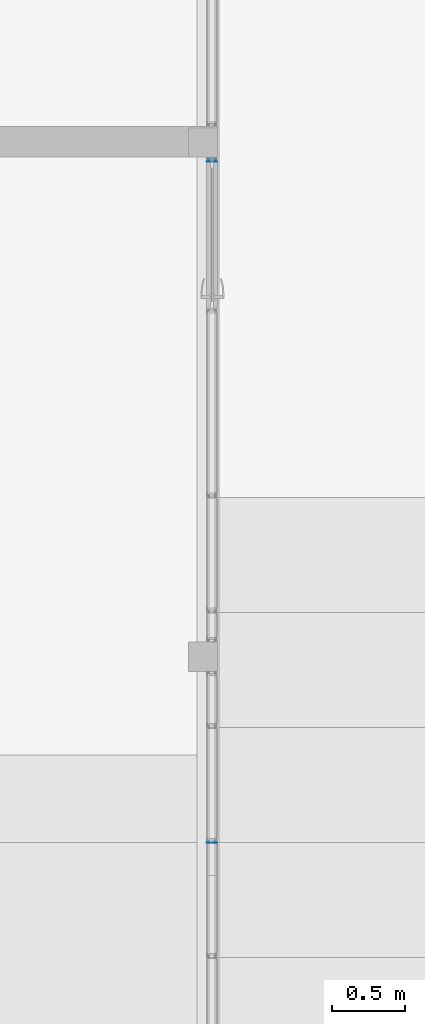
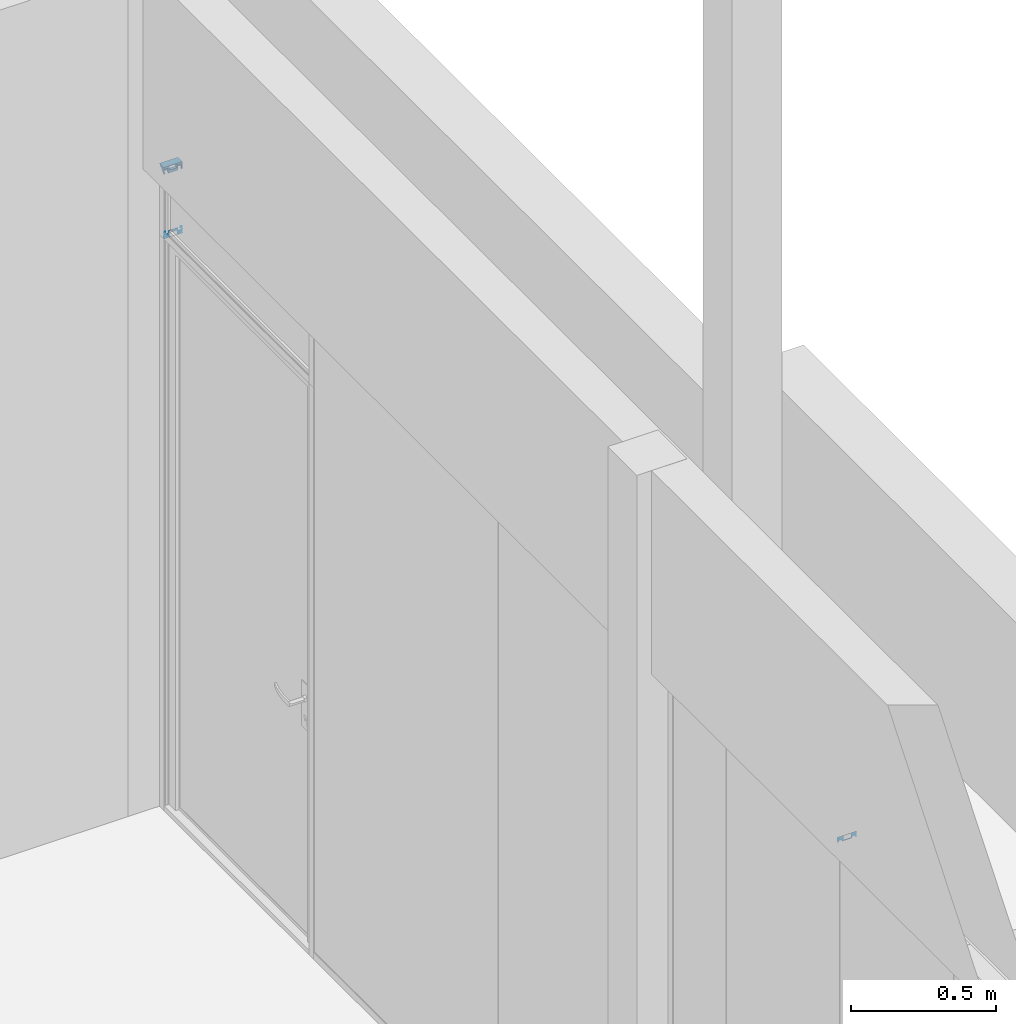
# One storey, part 52 of 65: 6 building element parts, 5 elements without a shape of their own.
"""IFC2X3 building model written with IfcOpenShell, lengths in millimetres."""

from ifc_helpers import new_model, entity, si_unit, converted_unit, derived_unit, money_unit, direction, frame, origin_with_axes, place, context, subcontext, project, spatial, faceted_brep, material, type_object, element, aggregate, save


model = new_model("IFC2X3")

# Units and contexts
model_context = context("Model", 3, precision=0.01, world=origin_with_axes(), true_north=direction((0.0, 1.0)))
body_context = subcontext(model_context, "Body", "Model", "MODEL_VIEW")
ifc_project = project(units=[si_unit("LENGTHUNIT", "METRE", prefix="MILLI"), si_unit("AREAUNIT", "SQUARE_METRE"), si_unit("VOLUMEUNIT", "CUBIC_METRE"), converted_unit("PLANEANGLEUNIT", "DEGREE", entity("IfcPlaneAngleMeasure", 0.0174532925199), si_unit("PLANEANGLEUNIT", "RADIAN"), dimensions=[0, 0, 0, 0, 0, 0, 0]), si_unit("SOLIDANGLEUNIT", "STERADIAN"), money_unit("EUR"), converted_unit("TIMEUNIT", "Year", entity("IfcTimeMeasure", 31556926.0), si_unit("TIMEUNIT", "SECOND"), dimensions=[0, 0, 1, 0, 0, 0, 0]), si_unit("MASSUNIT", "GRAM", prefix="KILO"), si_unit("THERMODYNAMICTEMPERATUREUNIT", "DEGREE_CELSIUS"), si_unit("LUMINOUSINTENSITYUNIT", "LUMEN"), si_unit("ENERGYUNIT", "JOULE", prefix="MEGA"), derived_unit("THERMALCONDUCTANCEUNIT", [(si_unit("POWERUNIT", "WATT"), 1), (si_unit("LENGTHUNIT", "METRE"), -1), (si_unit("THERMODYNAMICTEMPERATUREUNIT", "KELVIN"), -1)]), derived_unit("SPECIFICHEATCAPACITYUNIT", [(si_unit("ENERGYUNIT", "JOULE"), 1), (si_unit("MASSUNIT", "GRAM", prefix="KILO"), -1), (si_unit("THERMODYNAMICTEMPERATUREUNIT", "KELVIN"), -1)]), derived_unit("MASSDENSITYUNIT", [(si_unit("MASSUNIT", "GRAM", prefix="KILO"), 1), (si_unit("VOLUMEUNIT", "CUBIC_METRE"), -1)])], contexts=[model_context])

# Site, building, storey
site_placement = place(None, origin_with_axes())
site = spatial("IfcSite", under=ifc_project, at=site_placement, Name="Puškini 31, Narva", CompositionType="ELEMENT")
building_placement = place(site_placement, origin_with_axes())
building = spatial("IfcBuilding", under=site, at=building_placement, Name="Narva Riigigümnaasium", CompositionType="ELEMENT")
storey_placement = place(building_placement, frame((0.0, 0.0, -1320.0), z_axis=(0.0, 0.0, 1.0), x_axis=(1.0, 0.0, 0.0)))
storey = spatial("IfcBuildingStorey", under=building, at=storey_placement, Name="1.korrus -1.32", CompositionType="ELEMENT", Elevation=-1320.0)

# Curtain wall, member, building element parts
curtain_wall_type = type_object("IfcCurtainWallType", Name="Curtain Wall Type", PredefinedType="NOTDEFINED")
curtain_wall_1_placement = place(storey_placement, frame((30362.9999948, 159591.499992, 330.0), z_axis=(0.0, 0.0, 1.0), x_axis=(1.0, 0.0, 0.0)))
curtain_wall_1 = element("IfcCurtainWall", 1, at=curtain_wall_1_placement, inside=storey, type_object=curtain_wall_type, Name="G-SKLF-03")
member_type = type_object("IfcMemberType", Name="Boundary Frame 30 x 37", PredefinedType="MULLION")
member_1_placement = place(curtain_wall_1_placement, frame((0.0, 2741.70002059, 2369.99991028), z_axis=(0.0, -1.0, -2.12104469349e-08), x_axis=(0.0, 2.12104469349e-08, -1.0)))
member_1 = element("IfcMember", 2, at=member_1_placement, type_object=member_type, Name="G-SKLF-26-raam", ObjectType="MULLION")
aggregate(curtain_wall_1, [member_1])
ifc_material_1 = material(Name="Klaasvill")
building_element_part_1_placement = place(member_1_placement, origin_with_axes())
building_element_part_1 = element("IfcBuildingElementPart", 3, at=building_element_part_1_placement, material=ifc_material_1, Name="Klaasvill", context=body_context, shape_type="Brep", body=[
    faceted_brep([(7.49999990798, 34.0161444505, 0.825024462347), (13.8499999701, 34.0161444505, 0.507527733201), (13.8499999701, 34.0161444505, 0.0), (7.49999990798, 34.0161444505, 0.0), (13.8499999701, 20.000000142, 0.507527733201), (7.49999990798, 20.000000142, 0.825024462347), (13.8499999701, 20.000000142, 0.0), (7.49999990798, 20.000000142, 0.0)], [[[0, 1, 2, 3]], [[4, 1, 0, 5]], [[1, 4, 6, 2]], [[3, 2, 6, 7]], [[5, 0, 3, 7]], [[4, 5, 7, 6]]]),
    faceted_brep([(7.49999990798, -19.9999997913, 0.825024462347), (13.8499999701, -19.9999997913, 0.507527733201), (13.8499999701, -19.9999997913, 0.0), (7.49999990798, -19.9999997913, 0.0), (13.8499999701, -34.0161445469, 0.507527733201), (7.49999990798, -34.0161445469, 0.825024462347), (13.8499999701, -34.0161445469, 0.0), (7.49999990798, -34.0161445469, 0.0)], [[[0, 1, 2, 3]], [[4, 1, 0, 5]], [[1, 4, 6, 2]], [[2, 6, 7, 3]], [[5, 0, 3, 7]], [[4, 5, 7, 6]]]),
])
ifc_material_2 = material(Name="Teras RAL7012")
building_element_part_2_placement = place(member_1_placement, origin_with_axes())
building_element_part_2 = element("IfcBuildingElementPart", 4, at=building_element_part_2_placement, material=ifc_material_2, Name="Teras RAL7012", context=body_context, shape_type="Brep", body=[
    faceted_brep([(18.7999996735, -15.0000001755, 0.260030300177), (18.7999996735, 15.0000001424, 0.260030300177), (18.7999996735, 15.0000001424, 0.0), (18.7999996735, -15.0000001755, 0.0), (24.0006593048, -17.0000000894, 0.0), (24.0006593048, 17.0000000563, 0.0), (6.47482067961e-10, 17.0000000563, 1.20002059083), (6.47482067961e-10, -17.0000000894, 1.20002059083), (1.9999999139, 15.0000001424, 1.10002162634), (1.9999999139, -15.0000001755, 1.10002162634), (1.9999999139, 15.0000001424, 0.0), (0.0, -17.0000000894, 0.0), (0.0, 17.0000000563, 0.0), (1.9999999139, -15.0000001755, 0.0)], [[[0, 1, 2, 3]], [[4, 5, 6, 7], [8, 1, 0, 9]], [[1, 8, 10, 2]], [[5, 4, 11, 12], [13, 3, 2, 10]], [[9, 0, 3, 13]], [[6, 5, 12]], [[7, 6, 12, 11]], [[4, 7, 11]], [[8, 9, 13, 10]]]),
    faceted_brep([(6.47482067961e-10, 37.0, 1.20002059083), (24.0006593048, 37.0, 0.0), (0.0, 37.0, 0.0), (24.0006593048, 34.0161444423, 0.0), (6.47482067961e-10, 17.0, 1.20002059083), (24.0006593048, 17.0000000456, 0.0), (24.0006593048, 20.0000000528, 0.0), (13.8499999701, 20.000000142, 0.507527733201), (7.49999999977, 20.0, 0.825024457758), (7.49999999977, 34.0161444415, 0.825024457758), (13.8499999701, 34.0161444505, 0.507527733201), (0.0, 17.0, 0.0), (13.8499999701, 34.0161444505, 0.0), (7.49999999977, 34.0161444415, 0.0), (7.49999999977, 20.0, 0.0), (13.8499999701, 20.000000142, 0.0)], [[[0, 1, 2]], [[3, 1, 0, 4, 5, 6, 7, 8, 9, 10]], [[6, 5, 11, 2, 1, 3, 12, 13, 14, 15]], [[4, 0, 2, 11]], [[5, 4, 11]], [[7, 6, 15]], [[8, 7, 15, 14]], [[9, 8, 14, 13]], [[10, 9, 13, 12]], [[3, 10, 12]]]),
    faceted_brep([(6.47482067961e-10, -17.0, 1.20002059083), (24.0006593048, -17.0000000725, 0.0), (0.0, -17.0, 0.0), (24.0006593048, -19.9999999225, 0.0), (6.47482067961e-10, -37.0, 1.20002059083), (24.0006593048, -37.0, 0.0), (24.0006593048, -34.0161444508, 0.0), (13.8499999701, -34.0161445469, 0.507527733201), (7.49999999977, -34.0161444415, 0.825024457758), (7.49999999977, -20.0, 0.825024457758), (13.8499999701, -19.9999997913, 0.507527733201), (0.0, -37.0, 0.0), (13.8499999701, -19.9999997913, 0.0), (7.49999999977, -20.0, 0.0), (7.49999999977, -34.0161444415, 0.0), (13.8499999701, -34.0161445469, 0.0)], [[[0, 1, 2]], [[3, 1, 0, 4, 5, 6, 7, 8, 9, 10]], [[6, 5, 11, 2, 1, 3, 12, 13, 14, 15]], [[4, 0, 2, 11]], [[5, 4, 11]], [[7, 6, 15]], [[8, 7, 15, 14]], [[9, 8, 14, 13]], [[10, 9, 13, 12]], [[3, 10, 12]]]),
])
aggregate(member_1, [building_element_part_1, building_element_part_2])

# Curtain wall, member, building element parts, proxy
curtain_wall_2_placement = place(storey_placement, frame((30362.9999988, 164066.428557, -5.96047033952e-06), z_axis=(0.0, 0.0, 1.0), x_axis=(1.0, 0.0, 0.0)))
curtain_wall_2 = element("IfcCurtainWall", 5, at=curtain_wall_2_placement, inside=storey, type_object=curtain_wall_type, Name="G-SKLF-04")
member_2_placement = place(curtain_wall_2_placement, frame((0.0, 2903.37144197, 2700.000022), z_axis=(0.0, 1.0, 0.0), x_axis=(0.0, 0.0, 1.0)))
member_2 = element("IfcMember", 6, at=member_2_placement, type_object=member_type, Name="G-SKLF-27-raam", ObjectType="MULLION")
building_element_part_3_placement = place(member_2_placement, origin_with_axes())
building_element_part_3 = element("IfcBuildingElementPart", 7, at=building_element_part_3_placement, material=ifc_material_1, Name="Klaasvill", context=body_context, shape_type="Brep", body=[
    faceted_brep([(-7.49999990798, 20.000000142, 0.0), (-7.49999990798, 20.000000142, 22.6999666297), (-13.8499999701, 20.000000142, 16.3499665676), (-13.8499999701, 20.000000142, 0.0), (-7.49999990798, 34.0161444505, 0.0), (-7.49999990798, 34.0161444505, 22.6999666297), (-13.8499999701, 34.0161444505, 16.3499665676), (-13.8499999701, 34.0161444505, 0.0)], [[[0, 1, 2, 3]], [[4, 5, 1, 0]], [[1, 5, 6, 2]], [[3, 2, 6, 7]], [[0, 3, 7, 4]], [[7, 6, 5, 4]]]),
    faceted_brep([(-24.987414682, 34.0161444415, 0.0), (-24.987414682, 34.0161444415, 5.21255185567), (-25.004489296, 32.0307503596, 5.19547724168), (-25.004489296, 32.0307503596, 0.0), (-28.5126239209, 34.0161444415, 0.0), (-28.5126239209, 34.0161444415, 1.68734261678), (-28.7655837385, 33.0385325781, 1.43438279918), (-28.4955493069, 32.0307503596, 1.70441723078), (-27.75780152, 31.2930025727, 2.4421650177), (-26.7500193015, 31.0229681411, 3.44994723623), (-25.742237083, 31.2930025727, 4.45772945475), (-25.742237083, 31.2930025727, 0.0), (-26.7500193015, 31.0229681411, 0.0), (-27.75780152, 31.2930025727, 0.0), (-28.4955493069, 32.0307503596, 0.0), (-28.7655837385, 33.0385325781, 0.0)], [[[0, 1, 2, 3]], [[4, 5, 1, 0]], [[1, 5, 6, 7, 8, 9, 10, 2]], [[3, 2, 10, 11]], [[0, 3, 11, 12, 13, 14, 15, 4]], [[15, 6, 5, 4]], [[14, 7, 6, 15]], [[13, 8, 7, 14]], [[12, 9, 8, 13]], [[11, 10, 9, 12]]]),
    faceted_brep([(-7.49999990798, -19.9999997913, 0.0), (-7.49999990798, -19.9999997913, 22.6999666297), (-7.49999990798, -34.0161445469, 22.6999666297), (-7.49999990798, -34.0161445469, 0.0), (-13.8499999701, -19.9999997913, 0.0), (-13.8499999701, -19.9999997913, 16.3499665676), (-13.8499999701, -34.0161445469, 16.3499665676), (-13.8499999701, -34.0161445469, 0.0)], [[[0, 1, 2, 3]], [[4, 5, 1, 0]], [[1, 5, 6, 2]], [[3, 2, 6, 7]], [[0, 3, 7, 4]], [[7, 6, 5, 4]]]),
    faceted_brep([(-25.004489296, -32.0307503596, 0.0), (-25.004489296, -32.0307503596, 5.19547724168), (-24.987414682, -34.0161444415, 5.21255185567), (-24.987414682, -34.0161444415, 0.0), (-25.742237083, -31.2930025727, 0.0), (-25.742237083, -31.2930025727, 4.45772945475), (-26.7500193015, -31.0229681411, 3.44994723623), (-27.75780152, -31.2930025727, 2.4421650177), (-28.4955493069, -32.0307503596, 1.70441723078), (-28.7655837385, -33.0385325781, 1.43438279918), (-28.5126239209, -34.0161444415, 1.68734261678), (-28.5126239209, -34.0161444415, 0.0), (-28.7655837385, -33.0385325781, 0.0), (-28.4955493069, -32.0307503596, 0.0), (-27.75780152, -31.2930025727, 0.0), (-26.7500193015, -31.0229681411, 0.0)], [[[0, 1, 2, 3]], [[4, 5, 1, 0]], [[1, 5, 6, 7, 8, 9, 10, 2]], [[3, 2, 10, 11]], [[0, 3, 11, 12, 13, 14, 15, 4]], [[15, 6, 5, 4]], [[14, 7, 6, 15]], [[13, 8, 7, 14]], [[12, 9, 8, 13]], [[11, 10, 9, 12]]]),
])
building_element_part_4_placement = place(member_2_placement, origin_with_axes())
building_element_part_4 = element("IfcBuildingElementPart", 8, at=building_element_part_4_placement, material=ifc_material_2, Name="Teras RAL7012", context=body_context, shape_type="Brep", body=[
    faceted_brep([(0.0, -17.0000000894, 0.0), (0.0, -17.0000000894, 30.1999665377), (-29.5999996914, -17.0000000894, 0.599966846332), (-29.5999996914, -17.0000000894, 0.0), (0.0, 17.0000000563, 0.0), (0.0, 17.0000000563, 30.1999665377), (-29.5999996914, 17.0000000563, 0.599966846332), (-1.9999999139, 15.0000001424, 28.1999666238), (-1.9999999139, -15.0000001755, 28.1999666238), (-18.7999996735, -15.0000001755, 11.3999668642), (-18.7999996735, 15.0000001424, 11.3999668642), (-29.5999996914, 17.0000000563, 0.0), (-1.9999999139, 15.0000001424, 0.0), (-18.7999996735, 15.0000001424, 0.0), (-18.7999996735, -15.0000001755, 0.0), (-1.9999999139, -15.0000001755, 0.0)], [[[0, 1, 2, 3]], [[4, 5, 1, 0]], [[1, 5, 6, 2], [7, 8, 9, 10]], [[3, 2, 6, 11]], [[0, 3, 11, 4], [12, 13, 14, 15]], [[11, 6, 5, 4]], [[15, 8, 7, 12]], [[14, 9, 8, 15]], [[13, 10, 9, 14]], [[12, 7, 10, 13]]]),
    faceted_brep([(0.0, 17.0, 0.0), (0.0, 17.0, 30.1999665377), (-29.5999996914, 17.0000000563, 0.599966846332), (-29.5999996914, 17.0000000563, 0.0), (0.0, 37.0, 0.0), (0.0, 37.0, 30.1999665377), (-30.0000193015, 37.0, 0.199947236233), (-30.0000193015, 34.0161444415, 0.199947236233), (-28.5126239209, 34.0161444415, 1.68734261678), (-24.987414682, 34.0161444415, 5.21255185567), (-13.8499999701, 34.0161444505, 16.3499665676), (-7.49999999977, 34.0161444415, 22.6999665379), (-7.49999999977, 20.0, 22.6999665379), (-13.8499999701, 20.000000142, 16.3499665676), (-30.0000193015, 20.0, 0.199947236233), (-30.0000193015, 17.0, 0.199947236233), (-30.0000193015, 17.0, 0.0), (-30.0000193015, 20.0, 0.0), (-13.8499999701, 20.000000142, 0.0), (-7.49999999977, 20.0, 0.0), (-7.49999999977, 34.0161444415, 0.0), (-13.8499999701, 34.0161444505, 0.0), (-24.987414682, 34.0161444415, 0.0), (-28.5126239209, 34.0161444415, 0.0), (-30.0000193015, 34.0161444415, 0.0), (-30.0000193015, 37.0, 0.0)], [[[0, 1, 2, 3]], [[4, 5, 1, 0]], [[1, 5, 6, 7, 8, 9, 10, 11, 12, 13, 14, 15, 2]], [[3, 2, 15, 16]], [[0, 3, 16, 17, 18, 19, 20, 21, 22, 23, 24, 25, 4]], [[25, 6, 5, 4]], [[24, 7, 6, 25]], [[23, 8, 7, 24]], [[22, 9, 8, 23]], [[21, 10, 9, 22]], [[20, 11, 10, 21]], [[19, 12, 11, 20]], [[18, 13, 12, 19]], [[17, 14, 13, 18]], [[16, 15, 14, 17]]]),
    faceted_brep([(0.0, -17.0, 0.0), (0.0, -17.0, 30.1999665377), (0.0, -37.0, 30.1999665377), (0.0, -37.0, 0.0), (-29.5999996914, -17.0000000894, 0.0), (-29.5999996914, -17.0000000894, 0.599966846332), (-30.0000193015, -17.0, 0.199947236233), (-30.0000193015, -20.0, 0.199947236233), (-13.8499999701, -19.9999997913, 16.3499665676), (-7.49999999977, -20.0, 22.6999665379), (-7.49999999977, -34.0161444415, 22.6999665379), (-13.8499999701, -34.0161445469, 16.3499665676), (-24.987414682, -34.0161444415, 5.21255185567), (-28.5126239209, -34.0161444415, 1.68734261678), (-30.0000193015, -34.0161444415, 0.199947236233), (-30.0000193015, -37.0, 0.199947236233), (-30.0000193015, -37.0, 0.0), (-30.0000193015, -34.0161444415, 0.0), (-28.5126239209, -34.0161444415, 0.0), (-24.987414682, -34.0161444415, 0.0), (-13.8499999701, -34.0161445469, 0.0), (-7.49999999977, -34.0161444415, 0.0), (-7.49999999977, -20.0, 0.0), (-13.8499999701, -19.9999997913, 0.0), (-30.0000193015, -20.0, 0.0), (-30.0000193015, -17.0, 0.0)], [[[0, 1, 2, 3]], [[4, 5, 1, 0]], [[1, 5, 6, 7, 8, 9, 10, 11, 12, 13, 14, 15, 2]], [[3, 2, 15, 16]], [[0, 3, 16, 17, 18, 19, 20, 21, 22, 23, 24, 25, 4]], [[25, 6, 5, 4]], [[24, 7, 6, 25]], [[23, 8, 7, 24]], [[22, 9, 8, 23]], [[21, 10, 9, 22]], [[20, 11, 10, 21]], [[19, 12, 11, 20]], [[18, 13, 12, 19]], [[17, 14, 13, 18]], [[16, 15, 14, 17]]]),
])
aggregate(member_2, [building_element_part_3, building_element_part_4])
building_element_proxy_type = type_object("IfcBuildingElementProxyType", Name="30 x -96", PredefinedType="NOTDEFINED")
proxy_placement = place(curtain_wall_2_placement, frame((0.0, 2903.37144197, 2400.00000596), z_axis=(0.0, 1.0, 0.0), x_axis=(0.0, 0.0, 1.0)))
proxy = element("IfcBuildingElementProxy", 9, at=proxy_placement, type_object=building_element_proxy_type, Name="G-SKLF-04-raam")
aggregate(curtain_wall_2, [member_2, proxy])
building_element_part_5_placement = place(proxy_placement, origin_with_axes())
building_element_part_5 = element("IfcBuildingElementPart", 10, at=building_element_part_5_placement, material=ifc_material_1, Name="Klaasvill", context=body_context, shape_type="Brep", body=[
    faceted_brep([(7.49999990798, 20.000000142, 0.0), (13.8499999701, 20.000000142, 0.0), (13.8499999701, 20.000000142, 0.19994723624), (7.49999990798, 20.000000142, 0.19994723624), (7.49999990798, 34.0161444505, 0.0), (13.8499999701, 34.0161444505, 0.0), (13.8499999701, 34.0161444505, 0.19994723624), (7.49999990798, 34.0161444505, 0.19994723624)], [[[0, 1, 2, 3]], [[0, 4, 5, 1]], [[1, 5, 6, 2]], [[3, 2, 6, 7]], [[4, 0, 3, 7]], [[5, 4, 7, 6]]]),
    faceted_brep([(24.987414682, 34.0161444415, 0.0), (25.004489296, 32.0307503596, 0.0), (25.004489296, 32.0307503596, 0.19994723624), (24.987414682, 34.0161444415, 0.19994723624), (28.5126239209, 34.0161444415, 0.0), (28.7655837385, 33.0385325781, 0.0), (28.4955493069, 32.0307503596, 0.0), (27.75780152, 31.2930025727, 0.0), (26.7500193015, 31.0229681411, 0.0), (25.742237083, 31.2930025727, 0.0), (25.742237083, 31.2930025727, 0.19994723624), (26.7500193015, 31.0229681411, 0.19994723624), (27.75780152, 31.2930025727, 0.19994723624), (28.4955493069, 32.0307503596, 0.19994723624), (28.7655837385, 33.0385325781, 0.19994723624), (28.5126239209, 34.0161444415, 0.19994723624)], [[[0, 1, 2, 3]], [[0, 4, 5, 6, 7, 8, 9, 1]], [[1, 9, 10, 2]], [[3, 2, 10, 11, 12, 13, 14, 15]], [[4, 0, 3, 15]], [[5, 4, 15, 14]], [[6, 5, 14, 13]], [[7, 6, 13, 12]], [[8, 7, 12, 11]], [[9, 8, 11, 10]]]),
    faceted_brep([(7.49999990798, -19.9999997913, 0.0), (7.49999990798, -34.0161445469, 0.0), (7.49999990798, -34.0161445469, 0.19994723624), (7.49999990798, -19.9999997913, 0.19994723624), (13.8499999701, -19.9999997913, 0.0), (13.8499999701, -34.0161445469, 0.0), (13.8499999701, -34.0161445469, 0.19994723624), (13.8499999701, -19.9999997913, 0.19994723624)], [[[0, 1, 2, 3]], [[0, 4, 5, 1]], [[1, 5, 6, 2]], [[3, 2, 6, 7]], [[4, 0, 3, 7]], [[5, 4, 7, 6]]]),
    faceted_brep([(25.004489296, -32.0307503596, 0.0), (24.987414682, -34.0161444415, 0.0), (24.987414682, -34.0161444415, 0.19994723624), (25.004489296, -32.0307503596, 0.19994723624), (25.742237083, -31.2930025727, 0.0), (26.7500193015, -31.0229681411, 0.0), (27.75780152, -31.2930025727, 0.0), (28.4955493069, -32.0307503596, 0.0), (28.7655837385, -33.0385325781, 0.0), (28.5126239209, -34.0161444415, 0.0), (28.5126239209, -34.0161444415, 0.19994723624), (28.7655837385, -33.0385325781, 0.19994723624), (28.4955493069, -32.0307503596, 0.19994723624), (27.75780152, -31.2930025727, 0.19994723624), (26.7500193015, -31.0229681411, 0.19994723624), (25.742237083, -31.2930025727, 0.19994723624)], [[[0, 1, 2, 3]], [[0, 4, 5, 6, 7, 8, 9, 1]], [[1, 9, 10, 2]], [[3, 2, 10, 11, 12, 13, 14, 15]], [[4, 0, 3, 15]], [[5, 4, 15, 14]], [[6, 5, 14, 13]], [[7, 6, 13, 12]], [[8, 7, 12, 11]], [[9, 8, 11, 10]]]),
])
building_element_part_6_placement = place(proxy_placement, origin_with_axes())
building_element_part_6 = element("IfcBuildingElementPart", 11, at=building_element_part_6_placement, material=ifc_material_2, Name="Teras RAL7012", context=body_context, shape_type="Brep", body=[
    faceted_brep([(0.0, -17.0000000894, 0.0), (29.5999996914, -17.0000000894, 0.0), (29.5999996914, -17.0000000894, 0.19994723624), (0.0, -17.0000000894, 0.19994723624), (0.0, 17.0000000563, 0.0), (29.5999996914, 17.0000000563, 0.0), (1.9999999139, 15.0000001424, 0.0), (1.9999999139, -15.0000001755, 0.0), (18.7999996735, -15.0000001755, 0.0), (18.7999996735, 15.0000001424, 0.0), (29.5999996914, 17.0000000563, 0.19994723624), (0.0, 17.0000000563, 0.19994723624), (1.9999999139, 15.0000001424, 0.19994723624), (18.7999996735, 15.0000001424, 0.19994723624), (18.7999996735, -15.0000001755, 0.19994723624), (1.9999999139, -15.0000001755, 0.19994723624)], [[[0, 1, 2, 3]], [[0, 4, 5, 1], [6, 7, 8, 9]], [[1, 5, 10, 2]], [[3, 2, 10, 11], [12, 13, 14, 15]], [[4, 0, 3, 11]], [[5, 4, 11, 10]], [[7, 6, 12, 15]], [[8, 7, 15, 14]], [[9, 8, 14, 13]], [[6, 9, 13, 12]]]),
    faceted_brep([(0.0, 17.0, 0.0), (29.5999996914, 17.0000000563, 0.0), (29.5999996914, 17.0000000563, 0.19994723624), (0.0, 17.0, 0.19994723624), (0.0, 37.0, 0.0), (30.0000193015, 37.0, 0.0), (30.0000193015, 34.0161444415, 0.0), (28.5126239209, 34.0161444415, 0.0), (24.987414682, 34.0161444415, 0.0), (13.8499999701, 34.0161444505, 0.0), (7.49999999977, 34.0161444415, 0.0), (7.49999999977, 20.0, 0.0), (13.8499999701, 20.000000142, 0.0), (30.0000193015, 20.0, 0.0), (30.0000193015, 17.0, 0.0), (30.0000193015, 17.0, 0.19994723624), (30.0000193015, 20.0, 0.19994723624), (13.8499999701, 20.000000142, 0.19994723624), (7.49999999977, 20.0, 0.19994723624), (7.49999999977, 34.0161444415, 0.19994723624), (13.8499999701, 34.0161444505, 0.19994723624), (24.987414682, 34.0161444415, 0.19994723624), (28.5126239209, 34.0161444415, 0.19994723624), (30.0000193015, 34.0161444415, 0.19994723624), (30.0000193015, 37.0, 0.19994723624), (0.0, 37.0, 0.19994723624)], [[[0, 1, 2, 3]], [[0, 4, 5, 6, 7, 8, 9, 10, 11, 12, 13, 14, 1]], [[1, 14, 15, 2]], [[3, 2, 15, 16, 17, 18, 19, 20, 21, 22, 23, 24, 25]], [[4, 0, 3, 25]], [[5, 4, 25, 24]], [[6, 5, 24, 23]], [[7, 6, 23, 22]], [[8, 7, 22, 21]], [[9, 8, 21, 20]], [[10, 9, 20, 19]], [[11, 10, 19, 18]], [[12, 11, 18, 17]], [[13, 12, 17, 16]], [[14, 13, 16, 15]]]),
    faceted_brep([(0.0, -17.0, 0.0), (0.0, -37.0, 0.0), (0.0, -37.0, 0.19994723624), (0.0, -17.0, 0.19994723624), (29.5999996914, -17.0000000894, 0.0), (30.0000193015, -17.0, 0.0), (30.0000193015, -20.0, 0.0), (13.8499999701, -19.9999997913, 0.0), (7.49999999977, -20.0, 0.0), (7.49999999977, -34.0161444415, 0.0), (13.8499999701, -34.0161445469, 0.0), (24.987414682, -34.0161444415, 0.0), (28.5126239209, -34.0161444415, 0.0), (30.0000193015, -34.0161444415, 0.0), (30.0000193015, -37.0, 0.0), (30.0000193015, -37.0, 0.19994723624), (30.0000193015, -34.0161444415, 0.19994723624), (28.5126239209, -34.0161444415, 0.19994723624), (24.987414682, -34.0161444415, 0.19994723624), (13.8499999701, -34.0161445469, 0.19994723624), (7.49999999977, -34.0161444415, 0.19994723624), (7.49999999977, -20.0, 0.19994723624), (13.8499999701, -19.9999997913, 0.19994723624), (30.0000193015, -20.0, 0.19994723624), (30.0000193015, -17.0, 0.19994723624), (29.5999996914, -17.0000000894, 0.19994723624)], [[[0, 1, 2, 3]], [[0, 4, 5, 6, 7, 8, 9, 10, 11, 12, 13, 14, 1]], [[1, 14, 15, 2]], [[3, 2, 15, 16, 17, 18, 19, 20, 21, 22, 23, 24, 25]], [[4, 0, 3, 25]], [[5, 4, 25, 24]], [[6, 5, 24, 23]], [[7, 6, 23, 22]], [[8, 7, 22, 21]], [[9, 8, 21, 20]], [[10, 9, 20, 19]], [[11, 10, 19, 18]], [[12, 11, 18, 17]], [[13, 12, 17, 16]], [[14, 13, 16, 15]]]),
])
aggregate(proxy, [building_element_part_5, building_element_part_6])

save(model, "model.ifc")
